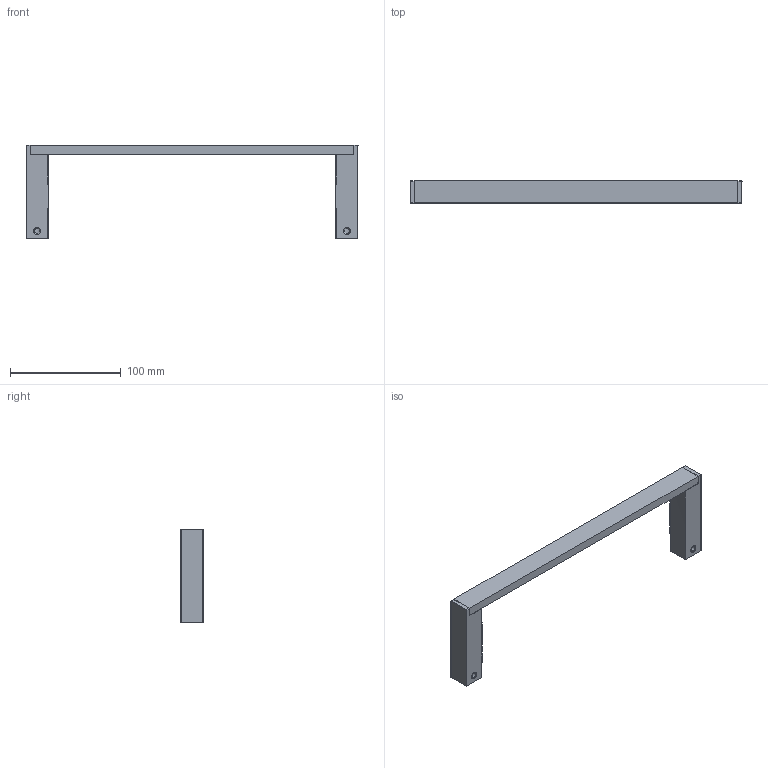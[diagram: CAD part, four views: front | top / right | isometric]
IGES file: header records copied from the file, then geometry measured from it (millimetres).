
Start section: SolidWorks IGES file using analytic representation for surfaces
Global section: file name: G:\Projects\New project\For Marketing\IGS\DXF & IGS\2290163.IGS; native system: SolidWorks 2010; preprocessor: SolidWorks 2010; author: weijuan; date: 151007.162207; units: inch
Bounding box: 300 x 20 x 84.5 mm (x, y, z)
Surface area: 37782.7 mm2 (no closed solid volume)
Topology: 0 solids, 0 shells, 98 faces, 732 edges, 732 vertices
Faces by surface type: bspline 50, revolution 48
